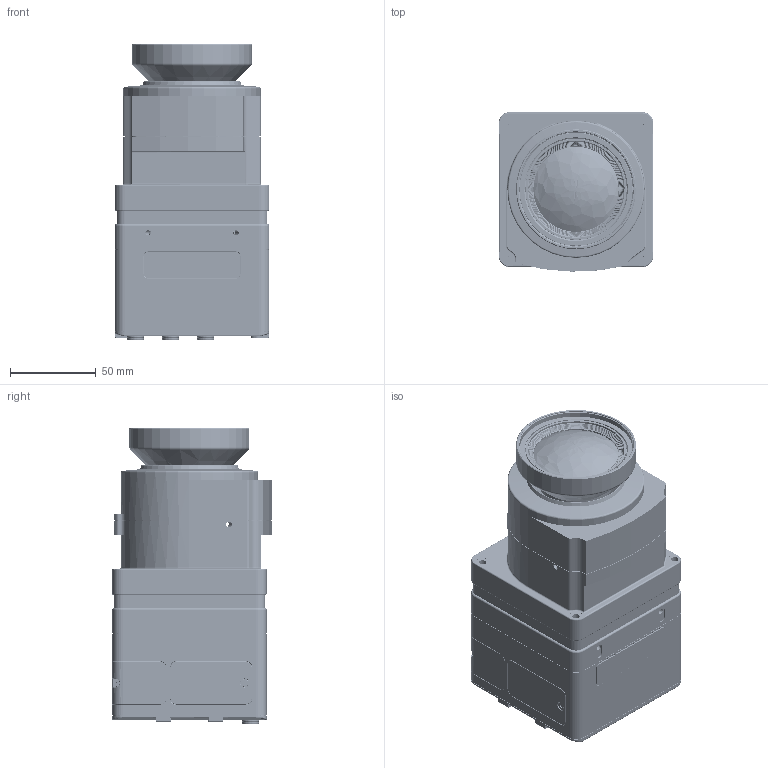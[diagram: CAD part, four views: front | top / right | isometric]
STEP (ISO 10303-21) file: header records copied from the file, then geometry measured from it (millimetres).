
FILE_DESCRIPTION (( 'STEP AP203' ), '1' );
FILE_NAME ('iXM-RS150 with 40mm lens.STEP', '2018-11-14T14:36:40', ( '' ), ( '' ), 'SwSTEP 2.0', 'SolidWorks 2017', '' );
FILE_SCHEMA (( 'CONFIG_CONTROL_DESIGN' ));
Products named in the file (1): iXM-RS150 with 40mm lens
Bounding box: 90.02 x 92.98 x 172.84 mm (x, y, z)
Volume: 311634.2 mm3; surface area: 248141.4 mm2
Topology: 62 solids, 64 shells, 6379 faces, 16397 edges, 10472 vertices
Faces by surface type: plane 2380, cylinder 2289, bspline 838, cone 586, torus 282, sphere 4
Entity records: 257875 total; most frequent: CARTESIAN_POINT 104820, ORIENTED_EDGE 32698, DIRECTION 31067, EDGE_CURVE 16349, AXIS2_PLACEMENT_3D 11247, VERTEX_POINT 10468, VECTOR 8573, LINE 8573
